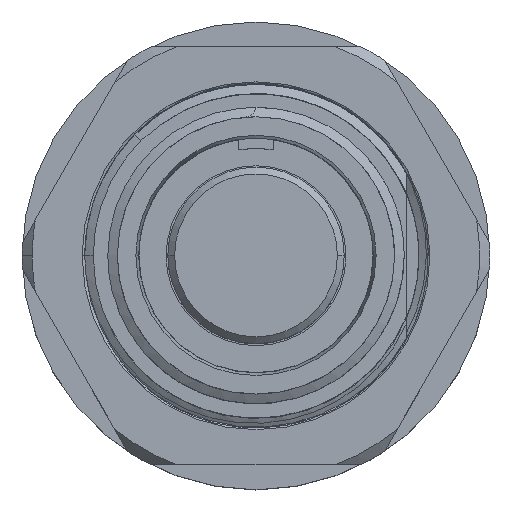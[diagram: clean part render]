
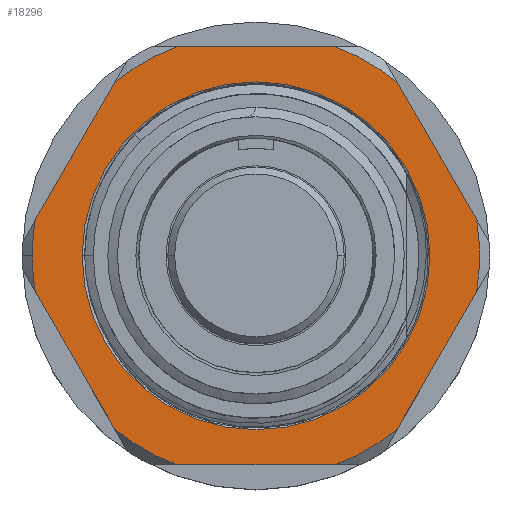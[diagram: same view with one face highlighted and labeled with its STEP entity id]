
A CAD part, top view. The second image highlights one B-rep face of the part: STEP entity #18296.
In plain terms, the highlighted planar face has unit normal (0, 0, 1).
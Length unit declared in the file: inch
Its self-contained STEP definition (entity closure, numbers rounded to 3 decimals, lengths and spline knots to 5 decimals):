
#98 = EDGE_CURVE ( 'NONE', #20103, #8917, #3015, .T. ) ;
#139 = EDGE_CURVE ( 'NONE', #19798, #2105, #8320, .T. ) ;
#157 = ORIENTED_EDGE ( 'NONE', *, *, #7891, .T. ) ;
#207 = FACE_BOUND ( 'NONE', #15367, .T. ) ;
#267 = EDGE_CURVE ( 'NONE', #15196, #14211, #18025, .T. ) ;
#513 = CARTESIAN_POINT ( 'NONE',  ( 0., 0., -0.59 ) ) ;
#519 = CARTESIAN_POINT ( 'NONE',  ( 0., 0.5075, -0.59 ) ) ;
#1128 = DIRECTION ( 'NONE',  ( 0., 0., 1. ) ) ;
#1289 = DIRECTION ( 'NONE',  ( -1., 0., 0. ) ) ;
#1333 = DIRECTION ( 'NONE',  ( 1., 0., 0. ) ) ;
#1743 = DIRECTION ( 'NONE',  ( 0., 0., 1. ) ) ;
#1795 = ORIENTED_EDGE ( 'NONE', *, *, #16927, .F. ) ;
#1819 = ORIENTED_EDGE ( 'NONE', *, *, #10736, .T. ) ;
#1907 = VERTEX_POINT ( 'NONE', #13000 ) ;
#1970 = FACE_OUTER_BOUND ( 'NONE', #7970, .T. ) ;
#2019 = ORIENTED_EDGE ( 'NONE', *, *, #267, .T. ) ;
#2060 = DIRECTION ( 'NONE',  ( 1., 0., 0. ) ) ;
#2105 = VERTEX_POINT ( 'NONE', #14990 ) ;
#2547 = CARTESIAN_POINT ( 'NONE',  ( 0., 0., -0.59 ) ) ;
#2666 = ORIENTED_EDGE ( 'NONE', *, *, #8971, .F. ) ;
#2703 = CARTESIAN_POINT ( 'NONE',  ( 0., 0., -0.59 ) ) ;
#2811 = DIRECTION ( 'NONE',  ( 1., 0., 0. ) ) ;
#2814 = CARTESIAN_POINT ( 'NONE',  ( 0.74803, 0.07562, -0.59 ) ) ;
#3015 = LINE ( 'NONE', #6259, #5971 ) ;
#3029 = LINE ( 'NONE', #8990, #16846 ) ;
#3077 = AXIS2_PLACEMENT_3D ( 'NONE', #2703, #1128, #7509 ) ;
#3182 = CARTESIAN_POINT ( 'NONE',  ( 0.41246, 0.5056, -0.59 ) ) ;
#3645 = DIRECTION ( 'NONE',  ( 1., 0., 0. ) ) ;
#3718 = EDGE_CURVE ( 'NONE', #20217, #18073, #7107, .T. ) ;
#3996 = CARTESIAN_POINT ( 'NONE',  ( -0.6525, 0., -0.59 ) ) ;
#4275 = CARTESIAN_POINT ( 'NONE',  ( 0., 0., -0.59 ) ) ;
#4341 = VERTEX_POINT ( 'NONE', #13876 ) ;
#4350 = LINE ( 'NONE', #9033, #18481 ) ;
#4354 = LINE ( 'NONE', #12707, #8113 ) ;
#4394 = ORIENTED_EDGE ( 'NONE', *, *, #139, .F. ) ;
#4460 = DIRECTION ( 'NONE',  ( -0.5, 0.866, 0. ) ) ;
#4504 = CARTESIAN_POINT ( 'NONE',  ( 0., 0., -0.59 ) ) ;
#4593 = DIRECTION ( 'NONE',  ( 1., 0., 0. ) ) ;
#4621 = EDGE_CURVE ( 'NONE', #17851, #18073, #16436, .T. ) ;
#4628 = CARTESIAN_POINT ( 'NONE',  ( 0.41246, -0.5056, -0.59 ) ) ;
#4948 = CARTESIAN_POINT ( 'NONE',  ( -0.23164, -0.61, -0.59 ) ) ;
#5234 = ORIENTED_EDGE ( 'NONE', *, *, #8683, .F. ) ;
#5472 = LINE ( 'NONE', #11871, #13457 ) ;
#5507 = ORIENTED_EDGE ( 'NONE', *, *, #4621, .T. ) ;
#5577 = DIRECTION ( 'NONE',  ( 0.5, -0.866, 0. ) ) ;
#5682 = VECTOR ( 'NONE', #15171, 39.37008 ) ;
#5971 = VECTOR ( 'NONE', #2811, 39.37008 ) ;
#6103 = AXIS2_PLACEMENT_3D ( 'NONE', #4275, #7485, #18598 ) ;
#6146 = CARTESIAN_POINT ( 'NONE',  ( -0.64409, -0.1044, -0.59 ) ) ;
#6198 = ORIENTED_EDGE ( 'NONE', *, *, #3718, .F. ) ;
#6259 = CARTESIAN_POINT ( 'NONE',  ( 0., 0.61, -0.59 ) ) ;
#6888 = AXIS2_PLACEMENT_3D ( 'NONE', #10027, #9709, #2060 ) ;
#7107 = LINE ( 'NONE', #2814, #5682 ) ;
#7314 = AXIS2_PLACEMENT_3D ( 'NONE', #17976, #1743, #3645 ) ;
#7484 = CARTESIAN_POINT ( 'NONE',  ( -0.23164, 0.61, -0.59 ) ) ;
#7485 = DIRECTION ( 'NONE',  ( 0., 0., 1. ) ) ;
#7509 = DIRECTION ( 'NONE',  ( 1., 0., 0. ) ) ;
#7891 = EDGE_CURVE ( 'NONE', #4341, #15196, #15135, .T. ) ;
#7970 = EDGE_LOOP ( 'NONE', ( #6198, #12568, #15413, #8487, #18650, #1819, #1795, #157, #2019, #14692, #10425, #2666, #5507 ) ) ;
#8113 = VECTOR ( 'NONE', #4460, 39.37008 ) ;
#8320 = CIRCLE ( 'NONE', #8651, 0.5075 ) ;
#8487 = ORIENTED_EDGE ( 'NONE', *, *, #10334, .T. ) ;
#8651 = AXIS2_PLACEMENT_3D ( 'NONE', #4504, #10879, #1333 ) ;
#8683 = EDGE_CURVE ( 'NONE', #2105, #19798, #17105, .T. ) ;
#8720 = EDGE_CURVE ( 'NONE', #11973, #14211, #4354, .T. ) ;
#8917 = VERTEX_POINT ( 'NONE', #18468 ) ;
#8971 = EDGE_CURVE ( 'NONE', #17851, #14973, #4350, .T. ) ;
#8990 = CARTESIAN_POINT ( 'NONE',  ( -0.30852, 0.68563, -0.59 ) ) ;
#9027 = DIRECTION ( 'NONE',  ( 0., 0., 1. ) ) ;
#9033 = CARTESIAN_POINT ( 'NONE',  ( 0., -0.61, -0.59 ) ) ;
#9240 = VERTEX_POINT ( 'NONE', #3182 ) ;
#9243 = DIRECTION ( 'NONE',  ( 1., 0., 0. ) ) ;
#9303 = DIRECTION ( 'NONE',  ( 0.5, 0.866, 0. ) ) ;
#9380 = CARTESIAN_POINT ( 'NONE',  ( 0., 0., -0.59 ) ) ;
#9709 = DIRECTION ( 'NONE',  ( 0., 0., 1. ) ) ;
#10027 = CARTESIAN_POINT ( 'NONE',  ( 0., 0., -0.59 ) ) ;
#10334 = EDGE_CURVE ( 'NONE', #9240, #8917, #19450, .T. ) ;
#10425 = ORIENTED_EDGE ( 'NONE', *, *, #20601, .T. ) ;
#10736 = EDGE_CURVE ( 'NONE', #20103, #1907, #12103, .T. ) ;
#10879 = DIRECTION ( 'NONE',  ( 0., 0., 1. ) ) ;
#11394 = EDGE_CURVE ( 'NONE', #9240, #11526, #5472, .T. ) ;
#11526 = VERTEX_POINT ( 'NONE', #17080 ) ;
#11621 = DIRECTION ( 'NONE',  ( 0., 0., -1. ) ) ;
#11871 = CARTESIAN_POINT ( 'NONE',  ( 0.30852, 0.68563, -0.59 ) ) ;
#11973 = VERTEX_POINT ( 'NONE', #16780 ) ;
#12093 = AXIS2_PLACEMENT_3D ( 'NONE', #513, #16423, #14738 ) ;
#12103 = CIRCLE ( 'NONE', #3077, 0.6525 ) ;
#12396 = DIRECTION ( 'NONE',  ( 1., 0., 0. ) ) ;
#12568 = ORIENTED_EDGE ( 'NONE', *, *, #14313, .T. ) ;
#12707 = CARTESIAN_POINT ( 'NONE',  ( -0.74803, 0.07562, -0.59 ) ) ;
#12916 = CIRCLE ( 'NONE', #6888, 0.6525 ) ;
#13000 = CARTESIAN_POINT ( 'NONE',  ( -0.41246, 0.5056, -0.59 ) ) ;
#13137 = AXIS2_PLACEMENT_3D ( 'NONE', #9380, #17035, #4593 ) ;
#13238 = CARTESIAN_POINT ( 'NONE',  ( 0.64409, -0.1044, -0.59 ) ) ;
#13252 = AXIS2_PLACEMENT_3D ( 'NONE', #519, #11621, #19360 ) ;
#13457 = VECTOR ( 'NONE', #5577, 39.37008 ) ;
#13876 = CARTESIAN_POINT ( 'NONE',  ( -0.64409, 0.1044, -0.59 ) ) ;
#14211 = VERTEX_POINT ( 'NONE', #6146 ) ;
#14313 = EDGE_CURVE ( 'NONE', #20217, #11526, #20495, .T. ) ;
#14692 = ORIENTED_EDGE ( 'NONE', *, *, #8720, .F. ) ;
#14738 = DIRECTION ( 'NONE',  ( 1., 0., 0. ) ) ;
#14973 = VERTEX_POINT ( 'NONE', #4948 ) ;
#14990 = CARTESIAN_POINT ( 'NONE',  ( 0.5075, 0., -0.59 ) ) ;
#15135 = CIRCLE ( 'NONE', #6103, 0.6525 ) ;
#15171 = DIRECTION ( 'NONE',  ( -0.5, -0.866, 0. ) ) ;
#15196 = VERTEX_POINT ( 'NONE', #3996 ) ;
#15367 = EDGE_LOOP ( 'NONE', ( #5234, #4394 ) ) ;
#15413 = ORIENTED_EDGE ( 'NONE', *, *, #11394, .F. ) ;
#16123 = CARTESIAN_POINT ( 'NONE',  ( -0.5075, 0., -0.59 ) ) ;
#16423 = DIRECTION ( 'NONE',  ( 0., 0., 1. ) ) ;
#16436 = CIRCLE ( 'NONE', #12093, 0.6525 ) ;
#16780 = CARTESIAN_POINT ( 'NONE',  ( -0.41246, -0.5056, -0.59 ) ) ;
#16846 = VECTOR ( 'NONE', #9303, 39.37008 ) ;
#16927 = EDGE_CURVE ( 'NONE', #4341, #1907, #3029, .T. ) ;
#17035 = DIRECTION ( 'NONE',  ( 0., 0., 1. ) ) ;
#17080 = CARTESIAN_POINT ( 'NONE',  ( 0.64409, 0.1044, -0.59 ) ) ;
#17105 = CIRCLE ( 'NONE', #17484, 0.5075 ) ;
#17324 = DIRECTION ( 'NONE',  ( 0., 0., 1. ) ) ;
#17484 = AXIS2_PLACEMENT_3D ( 'NONE', #20661, #17324, #12396 ) ;
#17636 = CARTESIAN_POINT ( 'NONE',  ( 0.23164, -0.61, -0.59 ) ) ;
#17851 = VERTEX_POINT ( 'NONE', #17636 ) ;
#17976 = CARTESIAN_POINT ( 'NONE',  ( 0., 0., -0.59 ) ) ;
#17998 = PLANE ( 'NONE',  #13252 ) ;
#18025 = CIRCLE ( 'NONE', #7314, 0.6525 ) ;
#18073 = VERTEX_POINT ( 'NONE', #4628 ) ;
#18296 = ADVANCED_FACE ( 'NONE', ( #207, #1970 ), #17998, .F. ) ;
#18468 = CARTESIAN_POINT ( 'NONE',  ( 0.23164, 0.61, -0.59 ) ) ;
#18481 = VECTOR ( 'NONE', #1289, 39.37008 ) ;
#18598 = DIRECTION ( 'NONE',  ( 1., 0., 0. ) ) ;
#18650 = ORIENTED_EDGE ( 'NONE', *, *, #98, .F. ) ;
#19360 = DIRECTION ( 'NONE',  ( -1., 0., 0. ) ) ;
#19450 = CIRCLE ( 'NONE', #19776, 0.6525 ) ;
#19776 = AXIS2_PLACEMENT_3D ( 'NONE', #2547, #9027, #9243 ) ;
#19798 = VERTEX_POINT ( 'NONE', #16123 ) ;
#20103 = VERTEX_POINT ( 'NONE', #7484 ) ;
#20217 = VERTEX_POINT ( 'NONE', #13238 ) ;
#20495 = CIRCLE ( 'NONE', #13137, 0.6525 ) ;
#20601 = EDGE_CURVE ( 'NONE', #11973, #14973, #12916, .T. ) ;
#20661 = CARTESIAN_POINT ( 'NONE',  ( 0., 0., -0.59 ) ) ;
